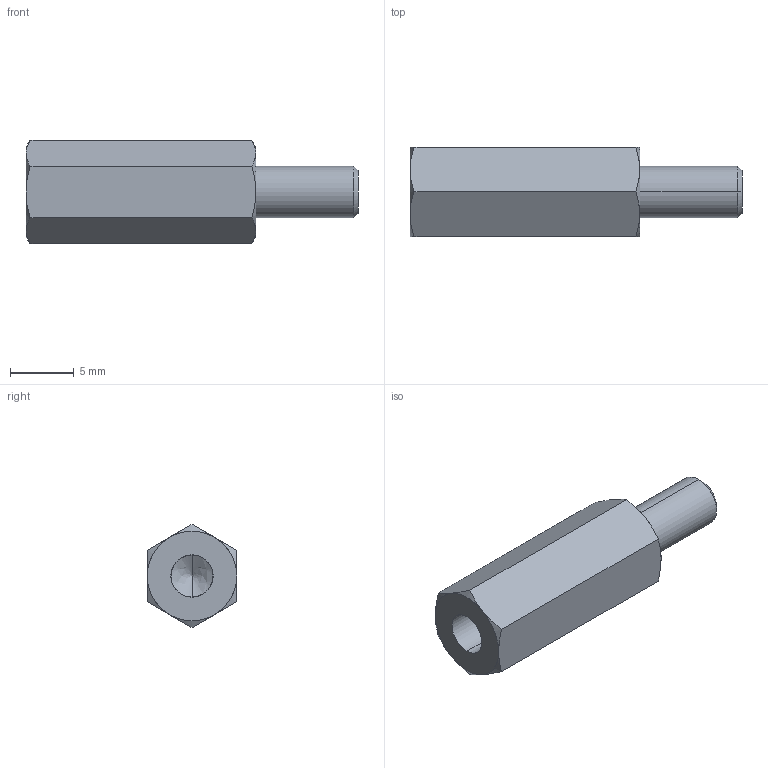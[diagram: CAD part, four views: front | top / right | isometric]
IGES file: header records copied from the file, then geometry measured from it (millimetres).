
Start section: SolidWorks IGES file using analytic representation for surfaces
Global section: file name: C:\Users\render1\Desktop\P0185_IGES\P0185.04-18.igs; native system: SolidWorks 2009; preprocessor: SolidWorks 2009; author: render1; date: 130627.112049; units: millimetre
Bounding box: 26 x 7 x 8.08 mm (x, y, z)
Surface area: 699.4 mm2 (no closed solid volume)
Topology: 0 solids, 0 shells, 29 faces, 320 edges, 318 vertices
Faces by surface type: revolution 20, bspline 9
